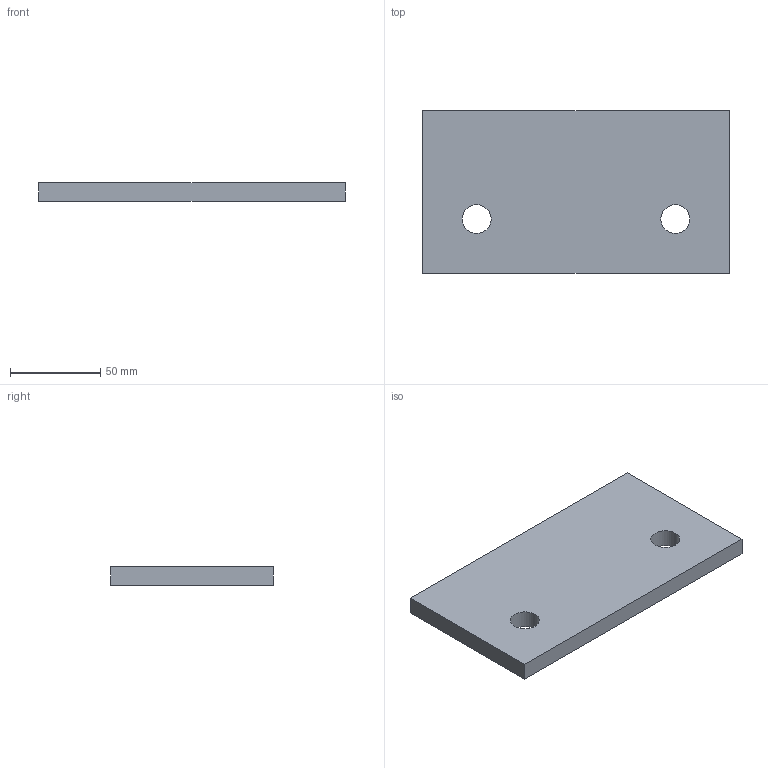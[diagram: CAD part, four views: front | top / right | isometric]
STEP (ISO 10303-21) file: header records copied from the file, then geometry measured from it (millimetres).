
FILE_DESCRIPTION(/* description */ (''),/* implementation_level */ '2;1');
FILE_NAME(/* name */ 'Pos126-Plaatwerk D= 10-S235JRG2-3st',/* time_stamp */ '2024-08-06T13:37:42+02:00',/* author */ (''),/* organization */ (''),/* preprocessor_version */ 'ST-DEVELOPER v16.5',/* originating_system */ 'HiCAD 2024 2901.2 Build 361',/* authorisation */ '');
FILE_SCHEMA (('AUTOMOTIVE_DESIGN { 1 0 10303 214 1 1 1 1 }'));
Length unit declared in the file: millimetre
Products named in the file (1): Pos126-Plaatwerk D= 10-S235JRG2-3st
Bounding box: 170 x 90 x 10 mm (x, y, z)
Volume: 148978.8 mm3; surface area: 36001.1 mm2
Topology: 1 solids, 1 shells, 8 faces, 18 edges, 12 vertices
Faces by surface type: plane 6, cylinder 2
Full cylindrical faces by diameter (mm): 16 x2
Entity records: 402 total; most frequent: DIRECTION 36, CARTESIAN_POINT 36, PRESENTATION_STYLE_ASSIGNMENT 33, COLOUR_RGB 33, DRAUGHTING_PRE_DEFINED_CURVE_FONT 32, CURVE_STYLE 32, OVER_RIDING_STYLED_ITEM 32, ORIENTED_EDGE 32
